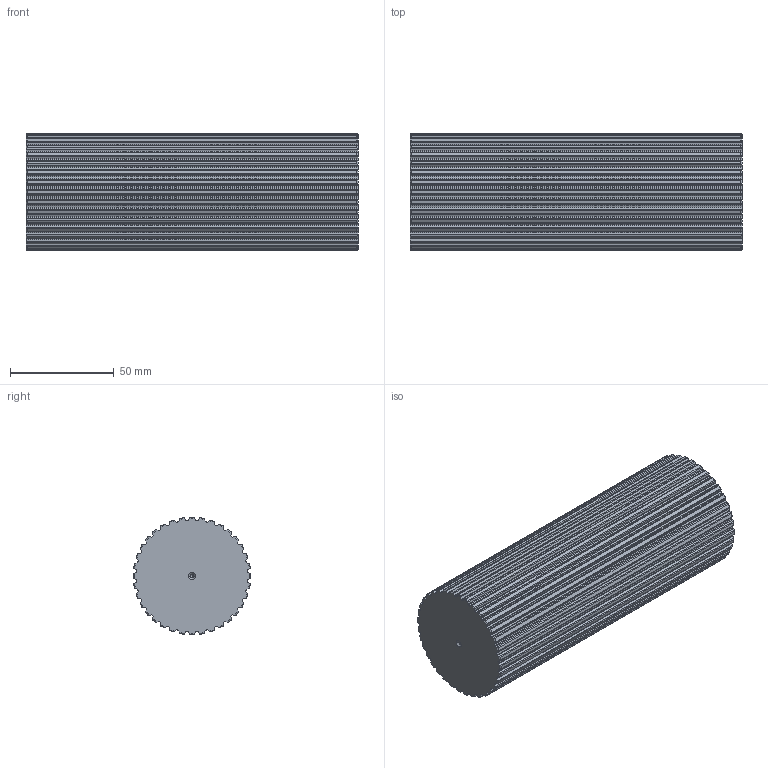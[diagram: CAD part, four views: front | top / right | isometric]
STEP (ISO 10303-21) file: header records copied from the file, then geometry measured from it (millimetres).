
FILE_DESCRIPTION(('STEP AP203'),'1');
FILE_NAME('bart_36.stp','2021-01-15T14:20:03',('TraceParts'),('TraceParts S.A.'),'Spatial InterOp 3D',' ',' ');
FILE_SCHEMA(('CONFIG_CONTROL_DESIGN'));
Length unit declared in the file: millimetre
Products named in the file (1): 1
Bounding box: 160 x 56.8 x 56.8 mm (x, y, z)
Volume: 388568.8 mm3; surface area: 41316.6 mm2
Topology: 1 solids, 1 shells, 378 faces, 1120 edges, 742 vertices
Faces by surface type: cylinder 220, cone 84, plane 74
Entity records: 13620 total; most frequent: CARTESIAN_POINT 3821, ORIENTED_EDGE 2232, DIRECTION 1966, EDGE_CURVE 1116, AXIS2_PLACEMENT_3D 759, VERTEX_POINT 742, LINE 448, VECTOR 448
